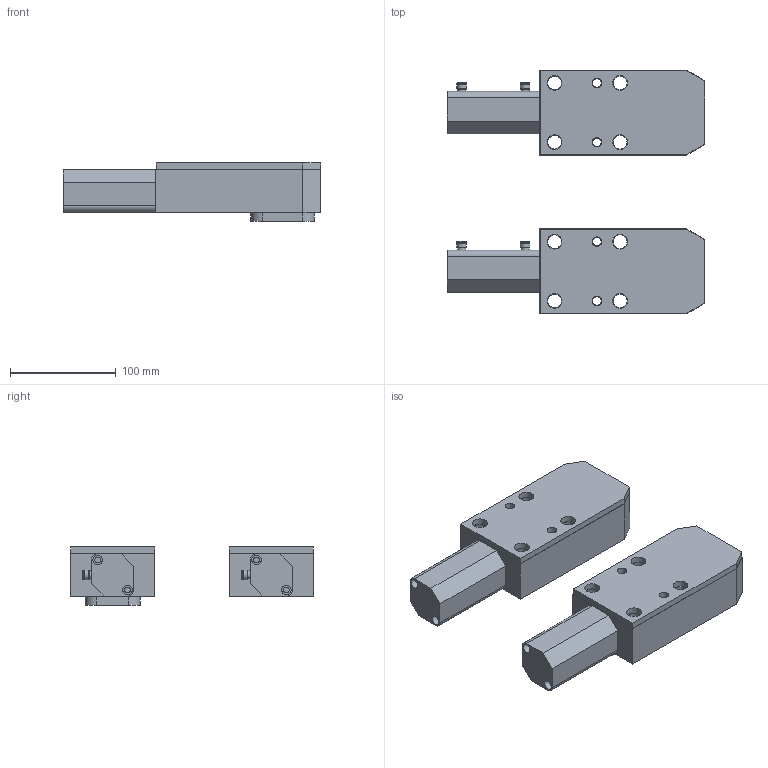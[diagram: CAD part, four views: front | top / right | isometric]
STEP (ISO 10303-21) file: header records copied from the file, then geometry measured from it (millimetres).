
FILE_DESCRIPTION(('STEP AP214'),'1');
FILE_NAME('1002.0040.stp','2020-05-22T14:12:33',(' '),(' '),'Spatial InterOp 3D',' ',' ');
FILE_SCHEMA(('AUTOMOTIVE_DESIGN { 1 0 10303 214 1 1 1 1 }'));
Length unit declared in the file: millimetre
Products named in the file (7): (PMS) 1002.0040; 5; 3; Assemblato; (PMI) 1002.0040; 6; 1
Assembly tree (6 placements, depth 3):
  Assemblato
    (PMS) 1002.0040
      5
      3
    (PMI) 1002.0040
      6
      1
Bounding box: 243.5 x 230 x 55 mm (x, y, z)
Volume: 1218892.9 mm3; surface area: 204143.6 mm2
Topology: 4 solids, 4 shells, 808 faces, 2134 edges, 1426 vertices
Faces by surface type: extrusion 376, plane 296, cylinder 118, torus 12, cone 4, sphere 2
Full cylindrical faces by diameter (mm): 5.5 x4, 7.5 x8, 8 x4, 8.5 x4, 9 x16, 13 x8, 14 x8, 19.9 x8, 40 x2
Entity records: 31510 total; most frequent: CARTESIAN_POINT 6559, ORIENTED_EDGE 4040, DIRECTION 2776, EDGE_CURVE 2020, VERTEX_POINT 1394, VECTOR 1390, B_SPLINE_CURVE_WITH_KNOTS 1130, LINE 1014
